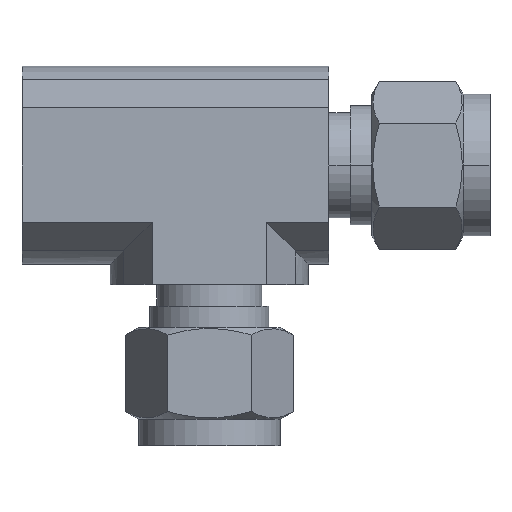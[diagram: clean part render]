
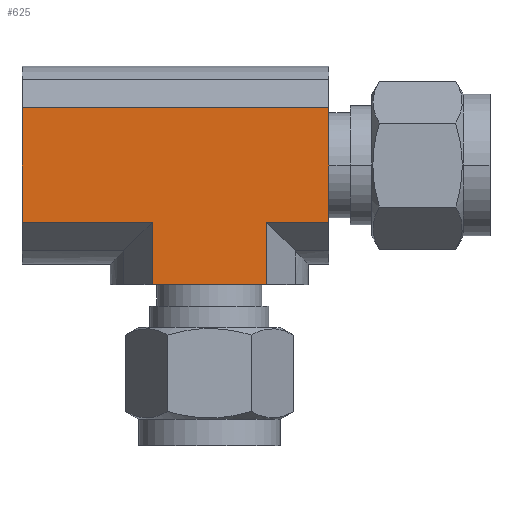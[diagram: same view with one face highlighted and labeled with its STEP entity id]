
A CAD part, top view. The second image highlights one B-rep face of the part: STEP entity #625.
In plain terms, the highlighted planar face has unit normal (0, 0, 1).
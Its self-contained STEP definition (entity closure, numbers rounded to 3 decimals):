
#275 = EDGE_CURVE ( 'NONE', #322, #276, #2415, .T. ) ;
#276 = VERTEX_POINT ( 'NONE', #2411 ) ;
#322 = VERTEX_POINT ( 'NONE', #1500 ) ;
#386 = VERTEX_POINT ( 'NONE', #1444 ) ;
#388 = EDGE_CURVE ( 'NONE', #386, #389, #1443, .T. ) ;
#389 = VERTEX_POINT ( 'NONE', #1439 ) ;
#422 = VERTEX_POINT ( 'NONE', #1680 ) ;
#427 = EDGE_CURVE ( 'NONE', #389, #422, #1726, .T. ) ;
#478 = ORIENTED_EDGE ( 'NONE', *, *, #427, .F. ) ;
#479 = ORIENTED_EDGE ( 'NONE', *, *, #388, .F. ) ;
#480 = ORIENTED_EDGE ( 'NONE', *, *, #623, .T. ) ;
#481 = ORIENTED_EDGE ( 'NONE', *, *, #482, .F. ) ;
#482 = EDGE_CURVE ( 'NONE', #717, #621, #1626, .T. ) ;
#621 = VERTEX_POINT ( 'NONE', #1872 ) ;
#623 = EDGE_CURVE ( 'NONE', #386, #621, #1871, .T. ) ;
#625 = ADVANCED_FACE ( 'NONE', ( #1837 ), #1836, .F. ) ;
#626 = EDGE_LOOP ( 'NONE', ( #627, #628, #630, #631, #478, #479, #480, #481 ) ) ;
#627 = ORIENTED_EDGE ( 'NONE', *, *, #716, .F. ) ;
#628 = ORIENTED_EDGE ( 'NONE', *, *, #629, .F. ) ;
#629 = EDGE_CURVE ( 'NONE', #276, #643, #1834, .T. ) ;
#630 = ORIENTED_EDGE ( 'NONE', *, *, #275, .F. ) ;
#631 = ORIENTED_EDGE ( 'NONE', *, *, #632, .T. ) ;
#632 = EDGE_CURVE ( 'NONE', #322, #422, #1827, .T. ) ;
#643 = VERTEX_POINT ( 'NONE', #1809 ) ;
#716 = EDGE_CURVE ( 'NONE', #643, #717, #2154, .T. ) ;
#717 = VERTEX_POINT ( 'NONE', #2150 ) ;
#1439 = CARTESIAN_POINT ( 'NONE',  ( 14.34, -6.87, 11.9 ) ) ;
#1440 = DIRECTION ( 'NONE',  ( 0., -1., 0. ) ) ;
#1441 = VECTOR ( 'NONE', #1440, 1000. ) ;
#1442 = CARTESIAN_POINT ( 'NONE',  ( 14.34, 6.87, 11.9 ) ) ;
#1443 = LINE ( 'NONE', #1442, #1441 ) ;
#1444 = CARTESIAN_POINT ( 'NONE',  ( 14.34, 6.87, 11.9 ) ) ;
#1500 = CARTESIAN_POINT ( 'NONE',  ( 6.87, -14.34, 11.9 ) ) ;
#1623 = DIRECTION ( 'NONE',  ( 0., 1., 0. ) ) ;
#1624 = VECTOR ( 'NONE', #1623, 1000. ) ;
#1625 = CARTESIAN_POINT ( 'NONE',  ( -22.5, -6.87, 11.9 ) ) ;
#1626 = LINE ( 'NONE', #1625, #1624 ) ;
#1680 = CARTESIAN_POINT ( 'NONE',  ( 6.87, -6.87, 11.9 ) ) ;
#1719 = DIRECTION ( 'NONE',  ( -1., 0., 0. ) ) ;
#1724 = VECTOR ( 'NONE', #1719, 1000. ) ;
#1725 = CARTESIAN_POINT ( 'NONE',  ( 14.34, -6.87, 11.9 ) ) ;
#1726 = LINE ( 'NONE', #1725, #1724 ) ;
#1809 = CARTESIAN_POINT ( 'NONE',  ( -6.87, -6.87, 11.9 ) ) ;
#1824 = DIRECTION ( 'NONE',  ( 0., 1., 0. ) ) ;
#1825 = VECTOR ( 'NONE', #1824, 1000. ) ;
#1826 = CARTESIAN_POINT ( 'NONE',  ( 6.87, -14.34, 11.9 ) ) ;
#1827 = LINE ( 'NONE', #1826, #1825 ) ;
#1828 = DIRECTION ( 'NONE',  ( 0., 1., 0. ) ) ;
#1829 = VECTOR ( 'NONE', #1828, 1000. ) ;
#1830 = CARTESIAN_POINT ( 'NONE',  ( -6.87, -14.34, 11.9 ) ) ;
#1831 = DIRECTION ( 'NONE',  ( 0., 1., 0. ) ) ;
#1832 = DIRECTION ( 'NONE',  ( 0., 0., -1. ) ) ;
#1833 = AXIS2_PLACEMENT_3D ( 'NONE', #1835, #1832, #1831 ) ;
#1834 = LINE ( 'NONE', #1830, #1829 ) ;
#1835 = CARTESIAN_POINT ( 'NONE',  ( 14.34, 6.87, 11.9 ) ) ;
#1836 = PLANE ( 'NONE',  #1833 ) ;
#1837 = FACE_OUTER_BOUND ( 'NONE', #626, .T. ) ;
#1838 = DIRECTION ( 'NONE',  ( -1., 0., 0. ) ) ;
#1869 = VECTOR ( 'NONE', #1838, 1000. ) ;
#1870 = CARTESIAN_POINT ( 'NONE',  ( 14.34, 6.87, 11.9 ) ) ;
#1871 = LINE ( 'NONE', #1870, #1869 ) ;
#1872 = CARTESIAN_POINT ( 'NONE',  ( -22.5, 6.87, 11.9 ) ) ;
#2150 = CARTESIAN_POINT ( 'NONE',  ( -22.5, -6.87, 11.9 ) ) ;
#2151 = DIRECTION ( 'NONE',  ( -1., 0., 0. ) ) ;
#2152 = VECTOR ( 'NONE', #2151, 1000. ) ;
#2153 = CARTESIAN_POINT ( 'NONE',  ( 14.34, -6.87, 11.9 ) ) ;
#2154 = LINE ( 'NONE', #2153, #2152 ) ;
#2411 = CARTESIAN_POINT ( 'NONE',  ( -6.87, -14.34, 11.9 ) ) ;
#2412 = DIRECTION ( 'NONE',  ( -1., 0., 0. ) ) ;
#2413 = VECTOR ( 'NONE', #2412, 1000. ) ;
#2414 = CARTESIAN_POINT ( 'NONE',  ( 6.87, -14.34, 11.9 ) ) ;
#2415 = LINE ( 'NONE', #2414, #2413 ) ;
